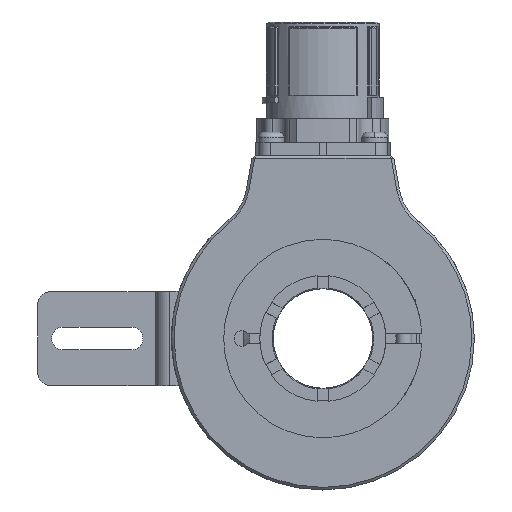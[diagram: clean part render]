
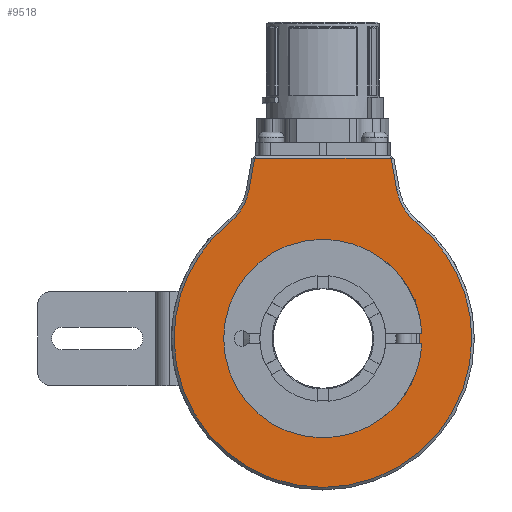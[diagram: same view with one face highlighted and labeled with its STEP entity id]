
A CAD part, left-side view. The second image highlights one B-rep face of the part: STEP entity #9518.
In plain terms, the highlighted planar face has unit normal (-1, 0, 0).
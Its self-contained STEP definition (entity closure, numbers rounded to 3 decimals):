
#115 = DIRECTION ( 'NONE',  ( 0., 1., 0. ) ) ;
#179 = EDGE_CURVE ( 'NONE', #25327, #13099, #21548, .T. ) ;
#307 = DIRECTION ( 'NONE',  ( -1., 0., 0. ) ) ;
#535 = CARTESIAN_POINT ( 'NONE',  ( -27., 17.883, 22.191 ) ) ;
#646 = CARTESIAN_POINT ( 'NONE',  ( -27., 0., 0. ) ) ;
#686 = PLANE ( 'NONE',  #699 ) ;
#699 = AXIS2_PLACEMENT_3D ( 'NONE', #2450, #12537, #16486 ) ;
#1807 = CARTESIAN_POINT ( 'NONE',  ( -27., -24.471, 30.367 ) ) ;
#2204 = LINE ( 'NONE', #21257, #20166 ) ;
#2382 = DIRECTION ( 'NONE',  ( 0., -1., 0. ) ) ;
#2450 = CARTESIAN_POINT ( 'NONE',  ( -27., 29., 0. ) ) ;
#2630 = CARTESIAN_POINT ( 'NONE',  ( -27., 0., 0. ) ) ;
#2773 = DIRECTION ( 'NONE',  ( 0., 1., 0. ) ) ;
#3000 = DIRECTION ( 'NONE',  ( -1., 0., 0. ) ) ;
#3261 = VECTOR ( 'NONE', #3968, 1000. ) ;
#3610 = VERTEX_POINT ( 'NONE', #16630 ) ;
#3805 = ORIENTED_EDGE ( 'NONE', *, *, #15037, .T. ) ;
#3944 = CARTESIAN_POINT ( 'NONE',  ( -27., 28.5, 0. ) ) ;
#3968 = DIRECTION ( 'NONE',  ( 0., 0.174, 0.985 ) ) ;
#4600 = ORIENTED_EDGE ( 'NONE', *, *, #24938, .T. ) ;
#5025 = DIRECTION ( 'NONE',  ( 0., 0.174, -0.985 ) ) ;
#5607 = VECTOR ( 'NONE', #2773, 1000. ) ;
#5843 = AXIS2_PLACEMENT_3D ( 'NONE', #11083, #6437, #15611 ) ;
#6076 = VERTEX_POINT ( 'NONE', #15393 ) ;
#6110 = AXIS2_PLACEMENT_3D ( 'NONE', #19749, #29158, #22104 ) ;
#6316 = CARTESIAN_POINT ( 'NONE',  ( -27., -17.711, 8.236 ) ) ;
#6437 = DIRECTION ( 'NONE',  ( 1., 0., 0. ) ) ;
#6623 = ORIENTED_EDGE ( 'NONE', *, *, #179, .T. ) ;
#7038 = AXIS2_PLACEMENT_3D ( 'NONE', #646, #3000, #21734 ) ;
#7249 = CARTESIAN_POINT ( 'NONE',  ( -27., 0., 0. ) ) ;
#7777 = CARTESIAN_POINT ( 'NONE',  ( -27., -28.5, 0. ) ) ;
#7822 = DIRECTION ( 'NONE',  ( 0., -1., 0. ) ) ;
#8536 = CIRCLE ( 'NONE', #15010, 18.5 ) ;
#8711 = VERTEX_POINT ( 'NONE', #28181 ) ;
#8783 = CIRCLE ( 'NONE', #26257, 28.5 ) ;
#9146 = DIRECTION ( 'NONE',  ( 0., -1., 0. ) ) ;
#9363 = CARTESIAN_POINT ( 'NONE',  ( -27., -14.131, 28.544 ) ) ;
#9518 = ADVANCED_FACE ( 'NONE', ( #14311, #21504 ), #686, .T. ) ;
#9840 = EDGE_CURVE ( 'NONE', #12132, #6076, #19959, .T. ) ;
#10545 = ORIENTED_EDGE ( 'NONE', *, *, #30327, .T. ) ;
#11083 = CARTESIAN_POINT ( 'NONE',  ( -27., 0., 0. ) ) ;
#11120 = LINE ( 'NONE', #6316, #3261 ) ;
#12132 = VERTEX_POINT ( 'NONE', #7777 ) ;
#12135 = CARTESIAN_POINT ( 'NONE',  ( -27., -18.5, 0. ) ) ;
#12495 = EDGE_CURVE ( 'NONE', #18497, #8711, #11120, .T. ) ;
#12537 = DIRECTION ( 'NONE',  ( -1., 0., 0. ) ) ;
#12697 = ORIENTED_EDGE ( 'NONE', *, *, #26038, .T. ) ;
#13099 = VERTEX_POINT ( 'NONE', #535 ) ;
#13850 = EDGE_LOOP ( 'NONE', ( #30133, #12697, #10545, #6623, #15266, #3805, #29975, #26634 ) ) ;
#14311 = FACE_OUTER_BOUND ( 'NONE', #13850, .T. ) ;
#15010 = AXIS2_PLACEMENT_3D ( 'NONE', #2630, #21674, #115 ) ;
#15037 = EDGE_CURVE ( 'NONE', #18022, #12132, #8783, .T. ) ;
#15266 = ORIENTED_EDGE ( 'NONE', *, *, #16364, .T. ) ;
#15393 = CARTESIAN_POINT ( 'NONE',  ( -27., -17.883, 22.191 ) ) ;
#15611 = DIRECTION ( 'NONE',  ( 0., 1., 0. ) ) ;
#16041 = EDGE_CURVE ( 'NONE', #24863, #24949, #21793, .T. ) ;
#16364 = EDGE_CURVE ( 'NONE', #13099, #18022, #30344, .T. ) ;
#16412 = DIRECTION ( 'NONE',  ( -1., 0., 0. ) ) ;
#16486 = DIRECTION ( 'NONE',  ( 0., -1., 0. ) ) ;
#16630 = CARTESIAN_POINT ( 'NONE',  ( -27., 13.08, 34.5 ) ) ;
#17416 = CARTESIAN_POINT ( 'NONE',  ( -27., 29., 34.5 ) ) ;
#18022 = VERTEX_POINT ( 'NONE', #3944 ) ;
#18497 = VERTEX_POINT ( 'NONE', #9363 ) ;
#19749 = CARTESIAN_POINT ( 'NONE',  ( -27., 24.471, 30.367 ) ) ;
#19959 = CIRCLE ( 'NONE', #7038, 28.5 ) ;
#20166 = VECTOR ( 'NONE', #5025, 1000. ) ;
#20837 = AXIS2_PLACEMENT_3D ( 'NONE', #24234, #307, #7822 ) ;
#21257 = CARTESIAN_POINT ( 'NONE',  ( -27., 19.46, -1.682 ) ) ;
#21504 = FACE_BOUND ( 'NONE', #24363, .T. ) ;
#21548 = CIRCLE ( 'NONE', #6110, 10.5 ) ;
#21674 = DIRECTION ( 'NONE',  ( 1., 0., 0. ) ) ;
#21734 = DIRECTION ( 'NONE',  ( 0., -1., 0. ) ) ;
#21793 = CIRCLE ( 'NONE', #5843, 18.5 ) ;
#21815 = LINE ( 'NONE', #17416, #5607 ) ;
#22104 = DIRECTION ( 'NONE',  ( 0., -1., 0. ) ) ;
#23041 = EDGE_CURVE ( 'NONE', #6076, #18497, #30916, .T. ) ;
#23698 = CARTESIAN_POINT ( 'NONE',  ( -27., 14.131, 28.544 ) ) ;
#24234 = CARTESIAN_POINT ( 'NONE',  ( -27., 0., 0. ) ) ;
#24363 = EDGE_LOOP ( 'NONE', ( #24515, #4600 ) ) ;
#24515 = ORIENTED_EDGE ( 'NONE', *, *, #16041, .T. ) ;
#24863 = VERTEX_POINT ( 'NONE', #30605 ) ;
#24938 = EDGE_CURVE ( 'NONE', #24949, #24863, #8536, .T. ) ;
#24949 = VERTEX_POINT ( 'NONE', #12135 ) ;
#25327 = VERTEX_POINT ( 'NONE', #23698 ) ;
#26038 = EDGE_CURVE ( 'NONE', #8711, #3610, #21815, .T. ) ;
#26257 = AXIS2_PLACEMENT_3D ( 'NONE', #7249, #16412, #2382 ) ;
#26634 = ORIENTED_EDGE ( 'NONE', *, *, #23041, .T. ) ;
#28075 = DIRECTION ( 'NONE',  ( 1., 0., 0. ) ) ;
#28181 = CARTESIAN_POINT ( 'NONE',  ( -27., -13.08, 34.5 ) ) ;
#28439 = AXIS2_PLACEMENT_3D ( 'NONE', #1807, #28075, #9146 ) ;
#29158 = DIRECTION ( 'NONE',  ( 1., 0., 0. ) ) ;
#29975 = ORIENTED_EDGE ( 'NONE', *, *, #9840, .T. ) ;
#30133 = ORIENTED_EDGE ( 'NONE', *, *, #12495, .T. ) ;
#30327 = EDGE_CURVE ( 'NONE', #3610, #25327, #2204, .T. ) ;
#30344 = CIRCLE ( 'NONE', #20837, 28.5 ) ;
#30605 = CARTESIAN_POINT ( 'NONE',  ( -27., 18.5, 0. ) ) ;
#30916 = CIRCLE ( 'NONE', #28439, 10.5 ) ;
